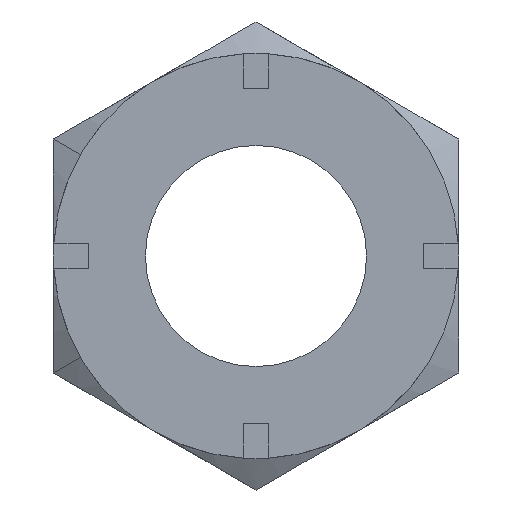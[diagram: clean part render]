
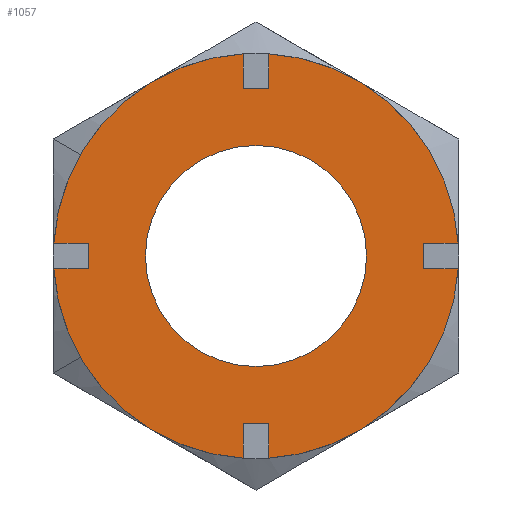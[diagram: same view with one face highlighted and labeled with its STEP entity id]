
A CAD part, left-side view. The second image highlights one B-rep face of the part: STEP entity #1057.
In plain terms, the highlighted planar face has unit normal (-1, 0, 0).
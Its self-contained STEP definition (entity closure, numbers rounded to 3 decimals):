
#130=CARTESIAN_POINT('',(-19.0,0.,6.));
#131=VERTEX_POINT('',#130);
#140=CARTESIAN_POINT('',(-19.0,6.,0.0));
#141=VERTEX_POINT('',#140);
#142=CARTESIAN_POINT('',(-19.0,0.0,0.0));
#143=DIRECTION('',(1.0,0.0,0.0));
#144=DIRECTION('',(0.0,1.0,0.0));
#145=AXIS2_PLACEMENT_3D('',#142,#143,#144);
#146=CIRCLE('',#145,6.);
#147=EDGE_CURVE('',#141,#131,#146,.T.);
#341=CARTESIAN_POINT('',(-19.0,0.,-6.));
#342=VERTEX_POINT('',#341);
#351=CARTESIAN_POINT('',(-19.0,-6.,0.));
#352=VERTEX_POINT('',#351);
#353=CARTESIAN_POINT('',(-19.0,0.0,0.0));
#354=DIRECTION('',(1.0,0.0,0.0));
#355=DIRECTION('',(0.0,1.0,0.0));
#356=AXIS2_PLACEMENT_3D('',#353,#354,#355);
#357=CIRCLE('',#356,6.);
#358=EDGE_CURVE('',#352,#342,#357,.T.);
#392=CARTESIAN_POINT('',(-19.0,0.0,0.0));
#393=DIRECTION('',(1.0,0.0,0.0));
#394=DIRECTION('',(0.0,1.0,0.0));
#395=AXIS2_PLACEMENT_3D('',#392,#393,#394);
#396=CIRCLE('',#395,6.);
#397=EDGE_CURVE('',#342,#141,#396,.T.);
#407=CARTESIAN_POINT('',(-19.0,10.978,0.7));
#408=VERTEX_POINT('',#407);
#423=CARTESIAN_POINT('',(-19.0,9.1,0.7));
#424=VERTEX_POINT('',#423);
#431=CARTESIAN_POINT('',(-19.0,10.978,0.7));
#432=DIRECTION('',(0.0,-1.0,0.0));
#433=VECTOR('',#432,1.878);
#434=LINE('',#431,#433);
#435=EDGE_CURVE('',#408,#424,#434,.T.);
#445=CARTESIAN_POINT('',(-19.0,10.978,-0.7));
#446=VERTEX_POINT('',#445);
#455=CARTESIAN_POINT('',(-19.0,9.1,-0.7));
#456=VERTEX_POINT('',#455);
#457=CARTESIAN_POINT('',(-19.0,9.1,-0.7));
#458=DIRECTION('',(0.0,1.0,0.0));
#459=VECTOR('',#458,1.878);
#460=LINE('',#457,#459);
#461=EDGE_CURVE('',#456,#446,#460,.T.);
#492=CARTESIAN_POINT('',(-19.0,9.1,0.7));
#493=DIRECTION('',(0.0,0.0,-1.0));
#494=VECTOR('',#493,1.4);
#495=LINE('',#492,#494);
#496=EDGE_CURVE('',#424,#456,#495,.T.);
#528=CARTESIAN_POINT('',(-19.0,-0.7,10.978));
#529=VERTEX_POINT('',#528);
#544=CARTESIAN_POINT('',(-19.0,-0.7,9.1));
#545=VERTEX_POINT('',#544);
#552=CARTESIAN_POINT('',(-19.0,-0.7,10.978));
#553=DIRECTION('',(0.0,0.0,-1.0));
#554=VECTOR('',#553,1.878);
#555=LINE('',#552,#554);
#556=EDGE_CURVE('',#529,#545,#555,.T.);
#566=CARTESIAN_POINT('',(-19.0,0.7,10.978));
#567=VERTEX_POINT('',#566);
#576=CARTESIAN_POINT('',(-19.0,0.7,9.1));
#577=VERTEX_POINT('',#576);
#578=CARTESIAN_POINT('',(-19.0,0.7,9.1));
#579=DIRECTION('',(0.0,0.0,1.0));
#580=VECTOR('',#579,1.878);
#581=LINE('',#578,#580);
#582=EDGE_CURVE('',#577,#567,#581,.T.);
#613=CARTESIAN_POINT('',(-19.0,-0.7,9.1));
#614=DIRECTION('',(0.0,1.0,0.0));
#615=VECTOR('',#614,1.4);
#616=LINE('',#613,#615);
#617=EDGE_CURVE('',#545,#577,#616,.T.);
#648=CARTESIAN_POINT('',(-19.0,-10.978,-0.7));
#649=VERTEX_POINT('',#648);
#664=CARTESIAN_POINT('',(-19.0,-9.1,-0.7));
#665=VERTEX_POINT('',#664);
#672=CARTESIAN_POINT('',(-19.0,-10.978,-0.7));
#673=DIRECTION('',(0.0,1.0,0.0));
#674=VECTOR('',#673,1.878);
#675=LINE('',#672,#674);
#676=EDGE_CURVE('',#649,#665,#675,.T.);
#686=CARTESIAN_POINT('',(-19.0,-10.978,0.7));
#687=VERTEX_POINT('',#686);
#696=CARTESIAN_POINT('',(-19.0,-9.1,0.7));
#697=VERTEX_POINT('',#696);
#698=CARTESIAN_POINT('',(-19.0,-9.1,0.7));
#699=DIRECTION('',(0.0,-1.0,0.0));
#700=VECTOR('',#699,1.878);
#701=LINE('',#698,#700);
#702=EDGE_CURVE('',#697,#687,#701,.T.);
#733=CARTESIAN_POINT('',(-19.0,-9.1,-0.7));
#734=DIRECTION('',(0.0,0.0,1.0));
#735=VECTOR('',#734,1.4);
#736=LINE('',#733,#735);
#737=EDGE_CURVE('',#665,#697,#736,.T.);
#777=CARTESIAN_POINT('',(-19.0,0.7,-10.978));
#778=VERTEX_POINT('',#777);
#793=CARTESIAN_POINT('',(-19.0,0.7,-9.1));
#794=VERTEX_POINT('',#793);
#801=CARTESIAN_POINT('',(-19.0,0.7,-10.978));
#802=DIRECTION('',(0.0,0.0,1.0));
#803=VECTOR('',#802,1.878);
#804=LINE('',#801,#803);
#805=EDGE_CURVE('',#778,#794,#804,.T.);
#815=CARTESIAN_POINT('',(-19.0,-0.7,-10.978));
#816=VERTEX_POINT('',#815);
#825=CARTESIAN_POINT('',(-19.0,-0.7,-9.1));
#826=VERTEX_POINT('',#825);
#827=CARTESIAN_POINT('',(-19.0,-0.7,-9.1));
#828=DIRECTION('',(0.0,0.0,-1.0));
#829=VECTOR('',#828,1.878);
#830=LINE('',#827,#829);
#831=EDGE_CURVE('',#826,#816,#830,.T.);
#862=CARTESIAN_POINT('',(-19.0,0.7,-9.1));
#863=DIRECTION('',(0.0,-1.0,0.0));
#864=VECTOR('',#863,1.4);
#865=LINE('',#862,#864);
#866=EDGE_CURVE('',#794,#826,#865,.T.);
#896=CARTESIAN_POINT('',(-19.0,0.0,0.0));
#897=DIRECTION('',(1.0,0.0,0.0));
#898=DIRECTION('',(0.0,1.0,0.0));
#899=AXIS2_PLACEMENT_3D('',#896,#897,#898);
#900=CIRCLE('',#899,11.0);
#901=EDGE_CURVE('',#649,#816,#900,.T.);
#929=CARTESIAN_POINT('',(-19.0,0.0,0.0));
#930=DIRECTION('',(1.0,0.0,0.0));
#931=DIRECTION('',(0.0,1.0,0.0));
#932=AXIS2_PLACEMENT_3D('',#929,#930,#931);
#933=CIRCLE('',#932,11.0);
#934=EDGE_CURVE('',#529,#687,#933,.T.);
#978=CARTESIAN_POINT('',(-19.0,0.0,0.0));
#979=DIRECTION('',(1.0,0.0,0.0));
#980=DIRECTION('',(0.0,1.0,0.0));
#981=AXIS2_PLACEMENT_3D('',#978,#979,#980);
#982=CIRCLE('',#981,11.0);
#983=EDGE_CURVE('',#778,#446,#982,.T.);
#994=CARTESIAN_POINT('',(-19.0,0.0,0.0));
#995=DIRECTION('',(1.0,0.0,0.0));
#996=DIRECTION('',(0.0,1.0,0.0));
#997=AXIS2_PLACEMENT_3D('',#994,#995,#996);
#998=CIRCLE('',#997,11.0);
#999=EDGE_CURVE('',#408,#567,#998,.T.);
#1022=CARTESIAN_POINT('',(-19.0,-12.075,-12.075));
#1023=DIRECTION('',(-1.0,0.0,0.0));
#1024=DIRECTION('',(0.0,0.0,1.0));
#1025=AXIS2_PLACEMENT_3D('',#1022,#1023,#1024);
#1026=PLANE('',#1025);
#1027=ORIENTED_EDGE('',*,*,#435,.T.);
#1028=ORIENTED_EDGE('',*,*,#496,.T.);
#1029=ORIENTED_EDGE('',*,*,#461,.T.);
#1030=ORIENTED_EDGE('',*,*,#983,.F.);
#1031=ORIENTED_EDGE('',*,*,#805,.T.);
#1032=ORIENTED_EDGE('',*,*,#866,.T.);
#1033=ORIENTED_EDGE('',*,*,#831,.T.);
#1034=ORIENTED_EDGE('',*,*,#901,.F.);
#1035=ORIENTED_EDGE('',*,*,#676,.T.);
#1036=ORIENTED_EDGE('',*,*,#737,.T.);
#1037=ORIENTED_EDGE('',*,*,#702,.T.);
#1038=ORIENTED_EDGE('',*,*,#934,.F.);
#1039=ORIENTED_EDGE('',*,*,#556,.T.);
#1040=ORIENTED_EDGE('',*,*,#617,.T.);
#1041=ORIENTED_EDGE('',*,*,#582,.T.);
#1042=ORIENTED_EDGE('',*,*,#999,.F.);
#1043=EDGE_LOOP('',(#1027,#1028,#1029,#1030,#1031,#1032,#1033,#1034,#1035,#1036,#1037,#1038,#1039,#1040,#1041,#1042));
#1044=FACE_OUTER_BOUND('',#1043,.T.);
#1045=ORIENTED_EDGE('',*,*,#147,.T.);
#1046=CARTESIAN_POINT('',(-19.0,0.0,0.0));
#1047=DIRECTION('',(1.0,0.0,0.0));
#1048=DIRECTION('',(0.0,1.0,0.0));
#1049=AXIS2_PLACEMENT_3D('',#1046,#1047,#1048);
#1050=CIRCLE('',#1049,6.);
#1051=EDGE_CURVE('',#131,#352,#1050,.T.);
#1052=ORIENTED_EDGE('',*,*,#1051,.T.);
#1053=ORIENTED_EDGE('',*,*,#358,.T.);
#1054=ORIENTED_EDGE('',*,*,#397,.T.);
#1055=EDGE_LOOP('',(#1045,#1052,#1053,#1054));
#1056=FACE_BOUND('',#1055,.T.);
#1057=ADVANCED_FACE('',(#1044,#1056),#1026,.T.);
